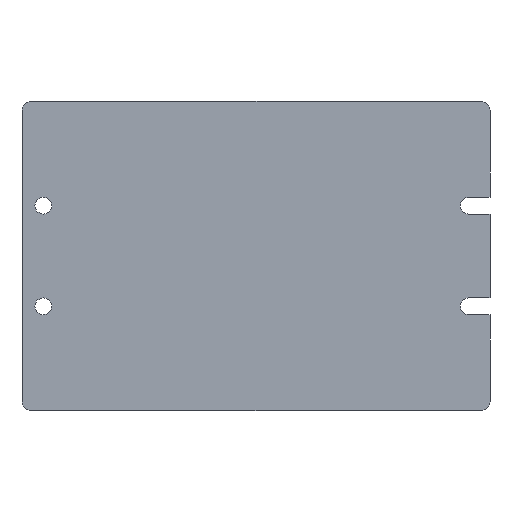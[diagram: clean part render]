
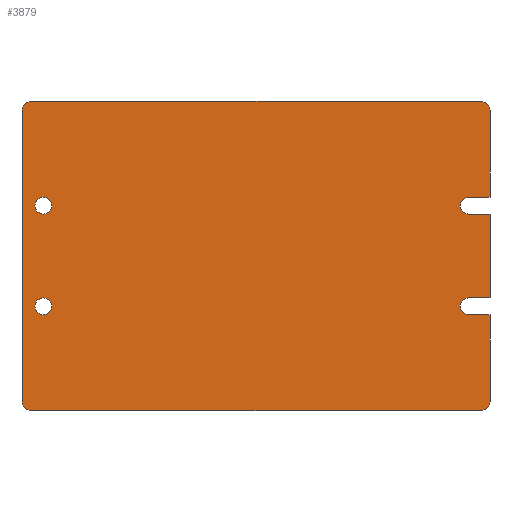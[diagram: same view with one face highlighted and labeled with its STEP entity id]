
A CAD part, left-side view. The second image highlights one B-rep face of the part: STEP entity #3879.
In plain terms, the highlighted planar face has unit normal (-1, 0, 0).
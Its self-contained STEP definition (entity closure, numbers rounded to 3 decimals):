
#2209 = VERTEX_POINT( '', #6294 );
#2297 = VERTEX_POINT( '', #6395 );
#2739 = VERTEX_POINT( '', #6881 );
#2795 = EDGE_CURVE( '', #3211, #4001, #6942, .T. );
#2797 = EDGE_CURVE( '', #5149, #4079, #6944, .T. );
#2823 = VERTEX_POINT( '', #6972 );
#2861 = EDGE_CURVE( '', #2209, #6001, #7013, .T. );
#2925 = EDGE_CURVE( '', #4079, #2823, #7082, .T. );
#2951 = EDGE_CURVE( '', #6001, #3999, #7114, .T. );
#3047 = VERTEX_POINT( '', #7223 );
#3075 = VERTEX_POINT( '', #7256 );
#3211 = VERTEX_POINT( '', #7406 );
#3225 = EDGE_CURVE( '', #3685, #5149, #7421, .T. );
#3361 = EDGE_CURVE( '', #3999, #6113, #7569, .T. );
#3447 = EDGE_CURVE( '', #5495, #4097, #7663, .T. );
#3513 = VERTEX_POINT( '', #7740 );
#3685 = VERTEX_POINT( '', #7934 );
#3879 = ADVANCED_FACE( '', ( #8144, #8145, #8146 ), #8147, .F. );
#3899 = EDGE_CURVE( '', #3075, #2297, #8169, .T. );
#3907 = VERTEX_POINT( '', #8177 );
#3999 = VERTEX_POINT( '', #8275 );
#4001 = VERTEX_POINT( '', #8277 );
#4029 = EDGE_CURVE( '', #2297, #3075, #8307, .T. );
#4079 = VERTEX_POINT( '', #8359 );
#4097 = VERTEX_POINT( '', #8380 );
#4525 = EDGE_CURVE( '', #4001, #3513, #8846, .T. );
#4613 = EDGE_CURVE( '', #4649, #2739, #8943, .T. );
#4649 = VERTEX_POINT( '', #8986 );
#4679 = EDGE_CURVE( '', #3907, #6105, #9018, .T. );
#4915 = EDGE_CURVE( '', #4097, #5495, #9272, .T. );
#5031 = EDGE_CURVE( '', #6105, #3211, #9395, .T. );
#5107 = EDGE_CURVE( '', #2739, #3685, #9481, .T. );
#5149 = VERTEX_POINT( '', #9527 );
#5151 = EDGE_CURVE( '', #6113, #3907, #9529, .T. );
#5495 = VERTEX_POINT( '', #9908 );
#5535 = EDGE_CURVE( '', #3047, #2209, #9951, .T. );
#5583 = EDGE_CURVE( '', #2823, #3047, #10001, .T. );
#6001 = VERTEX_POINT( '', #10473 );
#6105 = VERTEX_POINT( '', #10592 );
#6113 = VERTEX_POINT( '', #10600 );
#6143 = EDGE_CURVE( '', #3513, #4649, #10635, .T. );
#6294 = CARTESIAN_POINT( '', ( -176., 100.5, -69. ) );
#6395 = CARTESIAN_POINT( '', ( -176., 95., -18.75 ) );
#6881 = CARTESIAN_POINT( '', ( -176., -104.5, -18.75 ) );
#6942 = LINE( '', #11718, #11719 );
#6944 = LINE( '', #11722, #11723 );
#6972 = CARTESIAN_POINT( '', ( -176., -104.5, -65. ) );
#7013 = CIRCLE( '', #11815, 4. );
#7082 = LINE( '', #11919, #11920 );
#7114 = LINE( '', #11959, #11960 );
#7223 = CARTESIAN_POINT( '', ( -176., -100.5, -69. ) );
#7256 = CARTESIAN_POINT( '', ( -176., 95., -26.25 ) );
#7406 = CARTESIAN_POINT( '', ( -176., -104.5, 26.25 ) );
#7421 = CIRCLE( '', #12366, 3.75 );
#7569 = CIRCLE( '', #12572, 4. );
#7663 = CIRCLE( '', #12708, 3.75 );
#7740 = CARTESIAN_POINT( '', ( -176., -95., 18.75 ) );
#7934 = CARTESIAN_POINT( '', ( -176., -95., -18.75 ) );
#8144 = FACE_OUTER_BOUND( '', #13390, .T. );
#8145 = FACE_BOUND( '', #13391, .T. );
#8146 = FACE_BOUND( '', #13392, .T. );
#8147 = PLANE( '', #13393 );
#8169 = CIRCLE( '', #13422, 3.75 );
#8177 = CARTESIAN_POINT( '', ( -176., -100.5, 69. ) );
#8275 = CARTESIAN_POINT( '', ( -176., 104.5, 65. ) );
#8277 = CARTESIAN_POINT( '', ( -176., -95., 26.25 ) );
#8307 = CIRCLE( '', #13624, 3.75 );
#8359 = CARTESIAN_POINT( '', ( -176., -104.5, -26.25 ) );
#8380 = CARTESIAN_POINT( '', ( -176., 95., 18.75 ) );
#8846 = CIRCLE( '', #14380, 3.75 );
#8943 = LINE( '', #14520, #14521 );
#8986 = CARTESIAN_POINT( '', ( -176., -104.5, 18.75 ) );
#9018 = CIRCLE( '', #14622, 4. );
#9272 = CIRCLE( '', #14972, 3.75 );
#9395 = LINE( '', #15154, #15155 );
#9481 = LINE( '', #15273, #15274 );
#9527 = CARTESIAN_POINT( '', ( -176., -95., -26.25 ) );
#9529 = LINE( '', #15350, #15351 );
#9908 = CARTESIAN_POINT( '', ( -176., 95., 26.25 ) );
#9951 = LINE( '', #15932, #15933 );
#10001 = CIRCLE( '', #16003, 4. );
#10473 = CARTESIAN_POINT( '', ( -176., 104.5, -65. ) );
#10592 = CARTESIAN_POINT( '', ( -176., -104.5, 65. ) );
#10600 = CARTESIAN_POINT( '', ( -176., 100.5, 69. ) );
#10635 = LINE( '', #16850, #16851 );
#11718 = CARTESIAN_POINT( '', ( -176., -104.5, 26.25 ) );
#11719 = VECTOR( '', #17730, 1. );
#11722 = CARTESIAN_POINT( '', ( -176., -95., -26.25 ) );
#11723 = VECTOR( '', #17731, 1. );
#11815 = AXIS2_PLACEMENT_3D( '', #17788, #17789, #17790 );
#11919 = CARTESIAN_POINT( '', ( -176., -104.5, -26.25 ) );
#11920 = VECTOR( '', #17853, 1. );
#11959 = CARTESIAN_POINT( '', ( -176., 104.5, -65. ) );
#11960 = VECTOR( '', #17915, 1. );
#12366 = AXIS2_PLACEMENT_3D( '', #18263, #18264, #18265 );
#12572 = AXIS2_PLACEMENT_3D( '', #18421, #18422, #18423 );
#12708 = AXIS2_PLACEMENT_3D( '', #18522, #18523, #18524 );
#13390 = EDGE_LOOP( '', ( #19075, #19076, #19077, #19078, #19079, #19080, #19081, #19082, #19083, #19084, #19085, #19086, #19087, #19088, #19089, #19090 ) );
#13391 = EDGE_LOOP( '', ( #19091, #19092 ) );
#13392 = EDGE_LOOP( '', ( #19093, #19094 ) );
#13393 = AXIS2_PLACEMENT_3D( '', #19095, #19096, #19097 );
#13422 = AXIS2_PLACEMENT_3D( '', #19129, #19130, #19131 );
#13624 = AXIS2_PLACEMENT_3D( '', #19245, #19246, #19247 );
#14380 = AXIS2_PLACEMENT_3D( '', #19750, #19751, #19752 );
#14520 = CARTESIAN_POINT( '', ( -176., -104.5, 18.75 ) );
#14521 = VECTOR( '', #19859, 1. );
#14622 = AXIS2_PLACEMENT_3D( '', #19953, #19954, #19955 );
#14972 = AXIS2_PLACEMENT_3D( '', #20191, #20192, #20193 );
#15154 = CARTESIAN_POINT( '', ( -176., -104.5, 65. ) );
#15155 = VECTOR( '', #20290, 1. );
#15273 = CARTESIAN_POINT( '', ( -176., -104.5, -18.75 ) );
#15274 = VECTOR( '', #20396, 1. );
#15350 = CARTESIAN_POINT( '', ( -176., 100.5, 69. ) );
#15351 = VECTOR( '', #20445, 1. );
#15932 = CARTESIAN_POINT( '', ( -176., -100.5, -69. ) );
#15933 = VECTOR( '', #20920, 1. );
#16003 = AXIS2_PLACEMENT_3D( '', #20949, #20950, #20951 );
#16850 = CARTESIAN_POINT( '', ( -176., -95., 18.75 ) );
#16851 = VECTOR( '', #21732, 1. );
#17730 = DIRECTION( '', ( 0., 1., 0. ) );
#17731 = DIRECTION( '', ( 0., -1., 0. ) );
#17788 = CARTESIAN_POINT( '', ( -176., 100.5, -65. ) );
#17789 = DIRECTION( '', ( 1., 0., 0. ) );
#17790 = DIRECTION( '', ( 0., 0., -1. ) );
#17853 = DIRECTION( '', ( 0., 0., -1. ) );
#17915 = DIRECTION( '', ( 0., 0., 1. ) );
#18263 = CARTESIAN_POINT( '', ( -176., -95., -22.5 ) );
#18264 = DIRECTION( '', ( -1., 0., 0. ) );
#18265 = DIRECTION( '', ( 0., 0., 1. ) );
#18421 = CARTESIAN_POINT( '', ( -176., 100.5, 65. ) );
#18422 = DIRECTION( '', ( 1., 0., 0. ) );
#18423 = DIRECTION( '', ( 0., 1., 0. ) );
#18522 = CARTESIAN_POINT( '', ( -176., 95., 22.5 ) );
#18523 = DIRECTION( '', ( 1., 0., 0. ) );
#18524 = DIRECTION( '', ( 0., 0., -1. ) );
#19075 = ORIENTED_EDGE( '', *, *, #4679, .F. );
#19076 = ORIENTED_EDGE( '', *, *, #5151, .F. );
#19077 = ORIENTED_EDGE( '', *, *, #3361, .F. );
#19078 = ORIENTED_EDGE( '', *, *, #2951, .F. );
#19079 = ORIENTED_EDGE( '', *, *, #2861, .F. );
#19080 = ORIENTED_EDGE( '', *, *, #5535, .F. );
#19081 = ORIENTED_EDGE( '', *, *, #5583, .F. );
#19082 = ORIENTED_EDGE( '', *, *, #2925, .F. );
#19083 = ORIENTED_EDGE( '', *, *, #2797, .F. );
#19084 = ORIENTED_EDGE( '', *, *, #3225, .F. );
#19085 = ORIENTED_EDGE( '', *, *, #5107, .F. );
#19086 = ORIENTED_EDGE( '', *, *, #4613, .F. );
#19087 = ORIENTED_EDGE( '', *, *, #6143, .F. );
#19088 = ORIENTED_EDGE( '', *, *, #4525, .F. );
#19089 = ORIENTED_EDGE( '', *, *, #2795, .F. );
#19090 = ORIENTED_EDGE( '', *, *, #5031, .F. );
#19091 = ORIENTED_EDGE( '', *, *, #3899, .T. );
#19092 = ORIENTED_EDGE( '', *, *, #4029, .T. );
#19093 = ORIENTED_EDGE( '', *, *, #4915, .T. );
#19094 = ORIENTED_EDGE( '', *, *, #3447, .T. );
#19095 = CARTESIAN_POINT( '', ( -176., 0., 0. ) );
#19096 = DIRECTION( '', ( 1., 0., 0. ) );
#19097 = DIRECTION( '', ( 0., 0., -1. ) );
#19129 = CARTESIAN_POINT( '', ( -176., 95., -22.5 ) );
#19130 = DIRECTION( '', ( 1., 0., 0. ) );
#19131 = DIRECTION( '', ( 0., 0., -1. ) );
#19245 = CARTESIAN_POINT( '', ( -176., 95., -22.5 ) );
#19246 = DIRECTION( '', ( 1., 0., 0. ) );
#19247 = DIRECTION( '', ( 0., 0., -1. ) );
#19750 = CARTESIAN_POINT( '', ( -176., -95., 22.5 ) );
#19751 = DIRECTION( '', ( -1., 0., 0. ) );
#19752 = DIRECTION( '', ( 0., 0., 1. ) );
#19859 = DIRECTION( '', ( 0., 0., -1. ) );
#19953 = CARTESIAN_POINT( '', ( -176., -100.5, 65. ) );
#19954 = DIRECTION( '', ( 1., 0., 0. ) );
#19955 = DIRECTION( '', ( 0., 0., 1. ) );
#20191 = CARTESIAN_POINT( '', ( -176., 95., 22.5 ) );
#20192 = DIRECTION( '', ( 1., 0., 0. ) );
#20193 = DIRECTION( '', ( 0., 0., -1. ) );
#20290 = DIRECTION( '', ( 0., 0., -1. ) );
#20396 = DIRECTION( '', ( 0., 1., 0. ) );
#20445 = DIRECTION( '', ( 0., -1., 0. ) );
#20920 = DIRECTION( '', ( 0., 1., 0. ) );
#20949 = CARTESIAN_POINT( '', ( -176., -100.5, -65. ) );
#20950 = DIRECTION( '', ( 1., 0., 0. ) );
#20951 = DIRECTION( '', ( 0., -1., 0. ) );
#21732 = DIRECTION( '', ( 0., -1., 0. ) );
